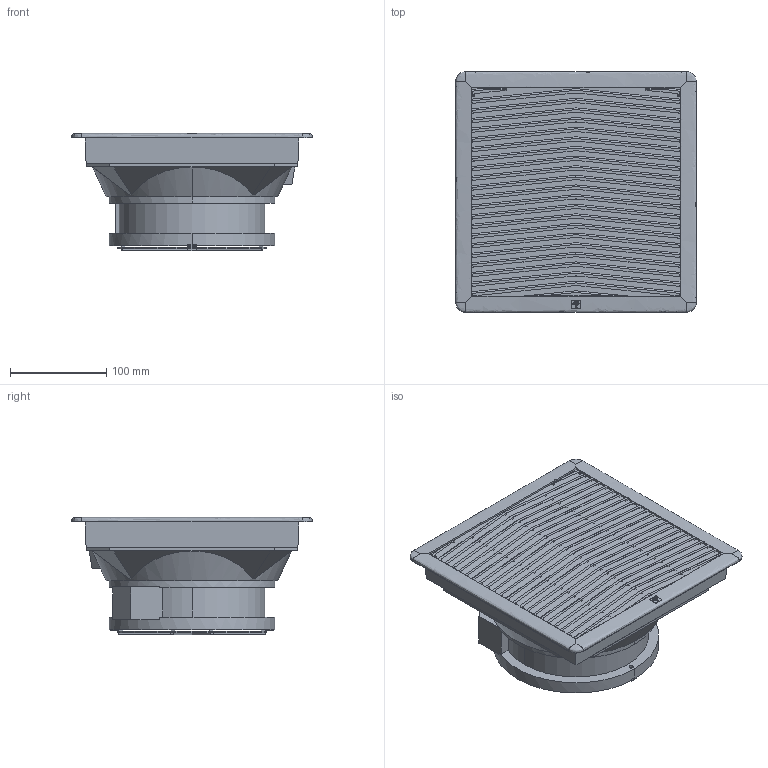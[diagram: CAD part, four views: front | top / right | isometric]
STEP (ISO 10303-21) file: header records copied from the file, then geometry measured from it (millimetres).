
FILE_DESCRIPTION (( 'STEP AP214' ), '1' );
FILE_NAME ('GF15KyxxxBE.STEP', '2023-10-19T07:39:29', ( '' ), ( '' ), 'SwSTEP 2.0', 'SolidWorks 2022', '' );
FILE_SCHEMA (( 'AUTOMOTIVE_DESIGN' ));
Length unit declared in the file: millimetre
Products named in the file (6): GF15B-7035_semplificata; GF15C-7035_semplificata; DT-02400DSI_C18C semplificato; DT-02106DSI_P15*FPF-nnnn semplificata; GF15KyxxxBE; DT-02363DSI_griglia semplificata
Assembly tree (5 placements, depth 2):
  GF15KyxxxBE
    GF15B-7035_semplificata
    GF15C-7035_semplificata
    DT-02106DSI_P15*FPF-nnnn semplificata
    DT-02400DSI_C18C semplificato
    DT-02363DSI_griglia semplificata
Bounding box: 250 x 250 x 122.46 mm (x, y, z)
Volume: 3766637.7 mm3; surface area: 442094.5 mm2
Topology: 28 solids, 29 shells, 830 faces, 2198 edges, 1451 vertices
Faces by surface type: plane 633, bspline 145, cylinder 46, torus 4, cone 2
Entity records: 34408 total; most frequent: CARTESIAN_POINT 15459, ORIENTED_EDGE 4388, DIRECTION 2709, EDGE_CURVE 2194, VERTEX_POINT 1451, LINE 1187, VECTOR 1187, B_SPLINE_CURVE_WITH_KNOTS 909
